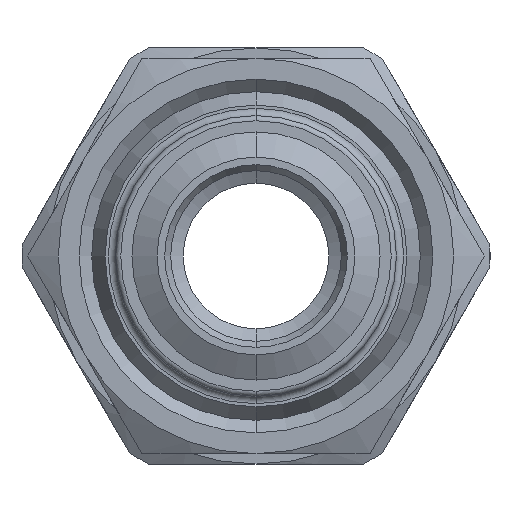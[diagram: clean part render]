
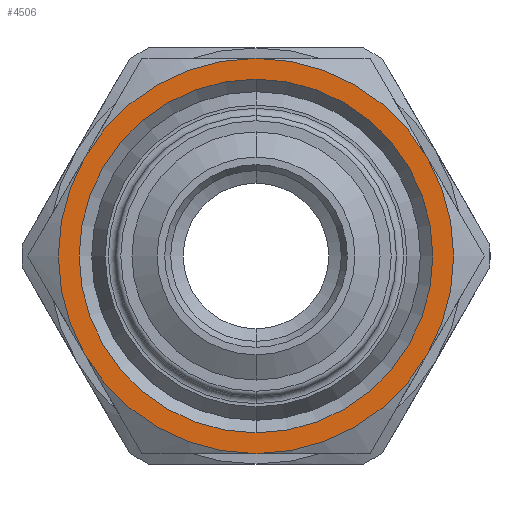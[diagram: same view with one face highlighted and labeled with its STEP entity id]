
A CAD part, front view. The second image highlights one B-rep face of the part: STEP entity #4506.
In plain terms, the highlighted planar face has unit normal (0, -1, 0).
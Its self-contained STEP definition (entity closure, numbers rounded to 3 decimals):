
#286 = VERTEX_POINT ( 'NONE', #2745 ) ;
#381 = AXIS2_PLACEMENT_3D ( 'NONE', #4577, #4354, #3467 ) ;
#685 = VERTEX_POINT ( 'NONE', #5088 ) ;
#704 = DIRECTION ( 'NONE',  ( 0., 0., -1. ) ) ;
#724 = CIRCLE ( 'NONE', #2443, 8.5 ) ;
#950 = EDGE_LOOP ( 'NONE', ( #4251, #5399, #5532, #3522, #2487, #1492 ) ) ;
#1166 = CARTESIAN_POINT ( 'NONE',  ( 0., 3.5, 0. ) ) ;
#1197 = AXIS2_PLACEMENT_3D ( 'NONE', #3002, #2984, #2963 ) ;
#1198 = EDGE_CURVE ( 'NONE', #4396, #286, #4571, .T. ) ;
#1227 = AXIS2_PLACEMENT_3D ( 'NONE', #4684, #4652, #4635 ) ;
#1407 = CARTESIAN_POINT ( 'NONE',  ( -8.227, 3.5, 4.75 ) ) ;
#1492 = ORIENTED_EDGE ( 'NONE', *, *, #1198, .T. ) ;
#1496 = DIRECTION ( 'NONE',  ( 0., -1., 0. ) ) ;
#1515 = CARTESIAN_POINT ( 'NONE',  ( 0., 3.5, 0. ) ) ;
#1586 = CARTESIAN_POINT ( 'NONE',  ( 8.227, 3.5, 4.75 ) ) ;
#1609 = DIRECTION ( 'NONE',  ( 0., 0., -1. ) ) ;
#1718 = EDGE_CURVE ( 'NONE', #286, #5558, #4779, .T. ) ;
#1819 = DIRECTION ( 'NONE',  ( 0., 0., -1. ) ) ;
#1833 = DIRECTION ( 'NONE',  ( 0., -1., 0. ) ) ;
#1851 = CARTESIAN_POINT ( 'NONE',  ( 0., 3.5, 0. ) ) ;
#1876 = FACE_OUTER_BOUND ( 'NONE', #950, .T. ) ;
#1962 = ORIENTED_EDGE ( 'NONE', *, *, #4486, .T. ) ;
#2017 = CIRCLE ( 'NONE', #4296, 9.5 ) ;
#2042 = CIRCLE ( 'NONE', #381, 9.5 ) ;
#2053 = DIRECTION ( 'NONE',  ( 0., -1., 0. ) ) ;
#2083 = CARTESIAN_POINT ( 'NONE',  ( 0., 3.5, 0. ) ) ;
#2155 = AXIS2_PLACEMENT_3D ( 'NONE', #1166, #4201, #1609 ) ;
#2241 = VERTEX_POINT ( 'NONE', #5155 ) ;
#2338 = CARTESIAN_POINT ( 'NONE',  ( -8.227, 3.5, -4.75 ) ) ;
#2342 = EDGE_CURVE ( 'NONE', #5156, #685, #2017, .T. ) ;
#2443 = AXIS2_PLACEMENT_3D ( 'NONE', #2469, #5495, #2902 ) ;
#2469 = CARTESIAN_POINT ( 'NONE',  ( 0., 3.5, 0. ) ) ;
#2487 = ORIENTED_EDGE ( 'NONE', *, *, #3363, .T. ) ;
#2670 = CARTESIAN_POINT ( 'NONE',  ( 0., 3.5, -8.5 ) ) ;
#2745 = CARTESIAN_POINT ( 'NONE',  ( 0., 3.5, -9.5 ) ) ;
#2832 = EDGE_LOOP ( 'NONE', ( #1962, #3112 ) ) ;
#2873 = CIRCLE ( 'NONE', #2155, 8.5 ) ;
#2902 = DIRECTION ( 'NONE',  ( 0., 0., -1. ) ) ;
#2959 = DIRECTION ( 'NONE',  ( 0., 0., -1. ) ) ;
#2963 = DIRECTION ( 'NONE',  ( 0., 0., -1. ) ) ;
#2984 = DIRECTION ( 'NONE',  ( 0., -1., 0. ) ) ;
#3002 = CARTESIAN_POINT ( 'NONE',  ( 0., 3.5, 0. ) ) ;
#3008 = FACE_BOUND ( 'NONE', #2832, .T. ) ;
#3016 = EDGE_CURVE ( 'NONE', #685, #4286, #4137, .T. ) ;
#3112 = ORIENTED_EDGE ( 'NONE', *, *, #4497, .T. ) ;
#3325 = PLANE ( 'NONE',  #4463 ) ;
#3341 = VERTEX_POINT ( 'NONE', #2670 ) ;
#3363 = EDGE_CURVE ( 'NONE', #4286, #4396, #4592, .T. ) ;
#3467 = DIRECTION ( 'NONE',  ( 0., 0., -1. ) ) ;
#3522 = ORIENTED_EDGE ( 'NONE', *, *, #3016, .T. ) ;
#3566 = AXIS2_PLACEMENT_3D ( 'NONE', #1515, #1496, #704 ) ;
#3830 = DIRECTION ( 'NONE',  ( 0., -1., 0. ) ) ;
#3866 = EDGE_CURVE ( 'NONE', #5558, #5156, #2042, .T. ) ;
#4137 = CIRCLE ( 'NONE', #3566, 9.5 ) ;
#4201 = DIRECTION ( 'NONE',  ( 0., 1., 0. ) ) ;
#4251 = ORIENTED_EDGE ( 'NONE', *, *, #1718, .T. ) ;
#4286 = VERTEX_POINT ( 'NONE', #1407 ) ;
#4296 = AXIS2_PLACEMENT_3D ( 'NONE', #2083, #3830, #2959 ) ;
#4354 = DIRECTION ( 'NONE',  ( 0., -1., 0. ) ) ;
#4396 = VERTEX_POINT ( 'NONE', #2338 ) ;
#4463 = AXIS2_PLACEMENT_3D ( 'NONE', #4641, #2053, #5065 ) ;
#4471 = CARTESIAN_POINT ( 'NONE',  ( 8.227, 3.5, -4.75 ) ) ;
#4486 = EDGE_CURVE ( 'NONE', #3341, #2241, #2873, .T. ) ;
#4497 = EDGE_CURVE ( 'NONE', #2241, #3341, #724, .T. ) ;
#4506 = ADVANCED_FACE ( 'NONE', ( #3008, #1876 ), #3325, .T. ) ;
#4571 = CIRCLE ( 'NONE', #1227, 9.5 ) ;
#4577 = CARTESIAN_POINT ( 'NONE',  ( 0., 3.5, 0. ) ) ;
#4592 = CIRCLE ( 'NONE', #5542, 9.5 ) ;
#4635 = DIRECTION ( 'NONE',  ( 0., 0., -1. ) ) ;
#4641 = CARTESIAN_POINT ( 'NONE',  ( 0., 3.5, 0. ) ) ;
#4652 = DIRECTION ( 'NONE',  ( 0., -1., 0. ) ) ;
#4684 = CARTESIAN_POINT ( 'NONE',  ( 0., 3.5, 0. ) ) ;
#4779 = CIRCLE ( 'NONE', #1197, 9.5 ) ;
#5065 = DIRECTION ( 'NONE',  ( 0., 0., -1. ) ) ;
#5088 = CARTESIAN_POINT ( 'NONE',  ( 0., 3.5, 9.5 ) ) ;
#5155 = CARTESIAN_POINT ( 'NONE',  ( 0., 3.5, 8.5 ) ) ;
#5156 = VERTEX_POINT ( 'NONE', #1586 ) ;
#5399 = ORIENTED_EDGE ( 'NONE', *, *, #3866, .T. ) ;
#5495 = DIRECTION ( 'NONE',  ( 0., 1., 0. ) ) ;
#5532 = ORIENTED_EDGE ( 'NONE', *, *, #2342, .T. ) ;
#5542 = AXIS2_PLACEMENT_3D ( 'NONE', #1851, #1833, #1819 ) ;
#5558 = VERTEX_POINT ( 'NONE', #4471 ) ;
